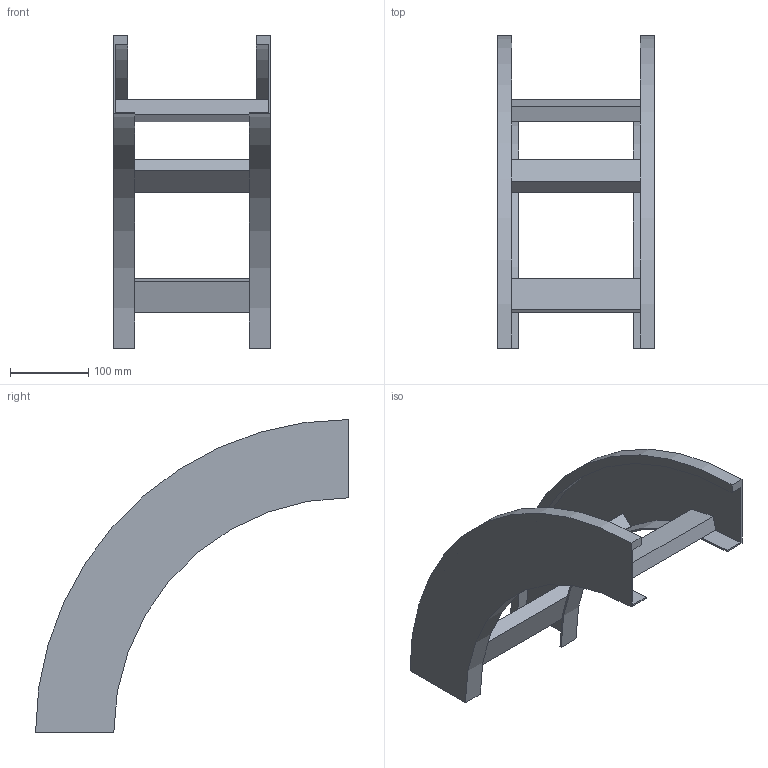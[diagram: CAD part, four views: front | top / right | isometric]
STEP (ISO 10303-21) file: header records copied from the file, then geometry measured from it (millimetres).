
FILE_DESCRIPTION (( 'STEP AP214' ), '1' );
FILE_NAME ('B2_33B3D200.step', '2025-02-21T15:02:21', ( '' ), ( '' ), 'SwSTEP 2.0', 'SolidWorks 2023', '' );
FILE_SCHEMA (( 'AUTOMOTIVE_DESIGN' ));
Length unit declared in the file: millimetre
Products named in the file (3): B2_LONGH.DISCESA_90°_H100_R300; B2_33B3D200; TRAVERSINO_200
Assembly tree (5 placements, depth 2):
  B2_33B3D200
    B2_LONGH.DISCESA_90°_H100_R300  x2
    TRAVERSINO_200  x3
Bounding box: 200 x 400 x 400 mm (x, y, z)
Volume: 981127.7 mm3; surface area: 388975.9 mm2
Topology: 5 solids, 5 shells, 38 faces, 84 edges, 56 vertices
Faces by surface type: plane 30, cylinder 8
Entity records: 560 total; most frequent: DIRECTION 92, CARTESIAN_POINT 84, ORIENTED_EDGE 72, EDGE_CURVE 36, AXIS2_PLACEMENT_3D 32, LINE 28, VECTOR 28, VERTEX_POINT 24
